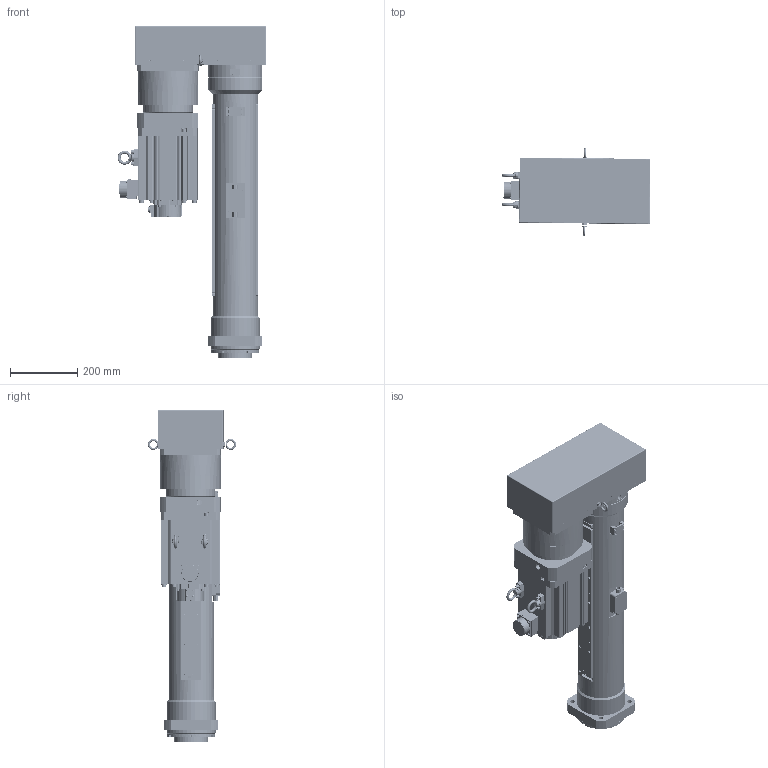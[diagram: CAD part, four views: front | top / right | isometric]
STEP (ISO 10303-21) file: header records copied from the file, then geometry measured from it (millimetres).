
FILE_DESCRIPTION( ('This file contains a STEP AP42 implementation' ,'as created by ZW3D STEP Interface translator.') ,'2;1' );
FILE_NAME( 'OACIS-DC-P080-P100-500-150-A6V200_v20.51.stp' ,'26 430.165724', (''), ('ZWCAD Software Co.'), 'Version 1.0', 'ZW3D to STEP translator', '' );
FILE_SCHEMA(('AUTOMOTIVE_DESIGN { 1 0 10303 214 1 1 1 1 }'));
Length unit declared in the file: millimetre
Products named in the file (1): 0
Bounding box: 443 x 262.74 x 988 mm (x, y, z)
Volume: 24441617.5 mm3; surface area: 2944257.3 mm2
Topology: 50 solids, 61 shells, 2509 faces, 6324 edges, 4100 vertices
Faces by surface type: cylinder 1055, plane 978, cone 339, torus 107, bspline 18, sphere 12
Full cylindrical faces by diameter (mm): 1.6 x8, 3.3 x90, 4.2 x18, 4.3 x34, 4.5 x8, 5 x4, 5.3 x4, 5.5 x6, 6.647 x2, 6.8 x69, 7 x8, 8 x40, 8.4 x8, 8.5 x1, 9 x19, 9.5 x4, 10 x6, 10.106 x4, 10.2 x8, 11 x4, 13 x12, 13.083 x1, 13.5 x4, 14 x23, 14.8 x1, 15 x8, 16 x10, 16.5 x2, 17.294 x1, 18 x5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
Entity records: 87740 total; most frequent: CARTESIAN_POINT 21899, DIRECTION 13516, ORIENTED_EDGE 12414, EDGE_CURVE 6218, AXIS2_PLACEMENT_3D 5173, VERTEX_POINT 4097, EDGE_LOOP 3173, VECTOR 3170
